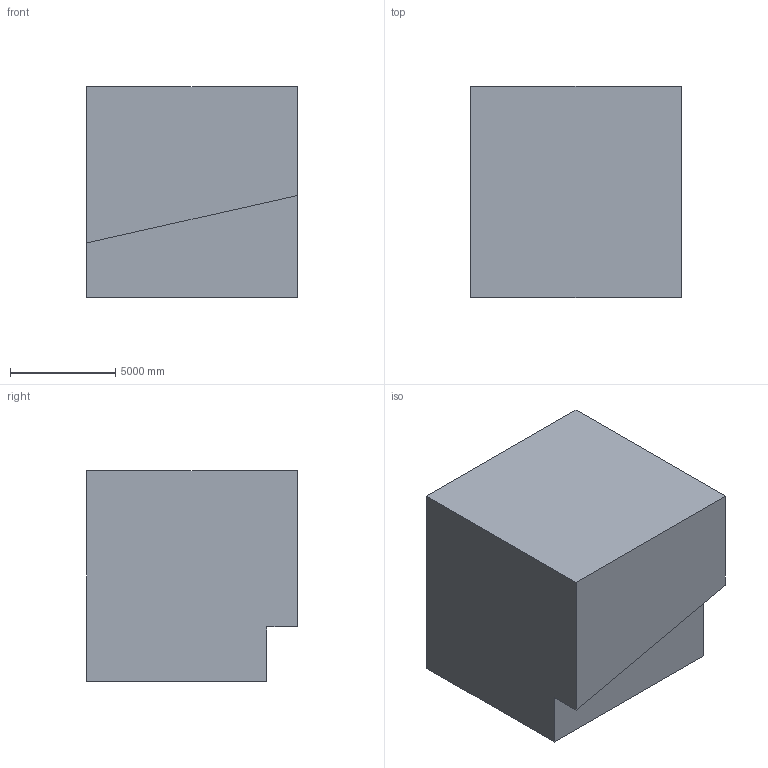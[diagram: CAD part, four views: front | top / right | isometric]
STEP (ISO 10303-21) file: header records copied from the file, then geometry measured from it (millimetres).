
FILE_DESCRIPTION (( 'STEP AP203' ), '1' );
FILE_NAME ('229.STEP', '2022-09-07T12:22:03', ( 'user' ), ( '' ), 'SwSTEP 2.0', 'SolidWorks 2021', '' );
FILE_SCHEMA (( 'CONFIG_CONTROL_DESIGN' ));
Length unit declared in the file: centimetre
Products named in the file (1): 229
Bounding box: 10000 x 10000 x 10000 mm (x, y, z)
Volume: 932687646648.1 mm3; surface area: 604118350.9 mm2
Topology: 1 solids, 1 shells, 12 faces, 30 edges, 20 vertices
Faces by surface type: plane 11, cylinder 1
Entity records: 433 total; most frequent: CARTESIAN_POINT 63, ORIENTED_EDGE 60, DIRECTION 58, EDGE_CURVE 30, LINE 28, VECTOR 28, VERTEX_POINT 20, AXIS2_PLACEMENT_3D 15
